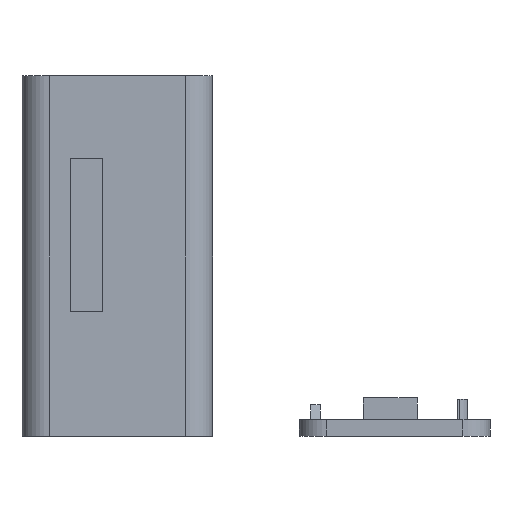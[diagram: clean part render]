
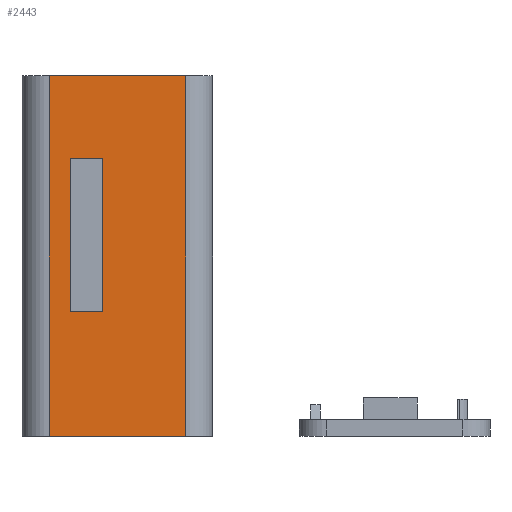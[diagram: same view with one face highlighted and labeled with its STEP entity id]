
A CAD part, left-side view. The second image highlights one B-rep face of the part: STEP entity #2443.
In plain terms, the highlighted planar face has unit normal (-1, 0, 0).
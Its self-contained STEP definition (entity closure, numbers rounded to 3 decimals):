
#27=FACE_BOUND('',#428,.T.);
#177=PLANE('',#2661);
#292=FACE_OUTER_BOUND('',#427,.T.);
#427=EDGE_LOOP('',(#2049,#2050,#2051,#2052));
#428=EDGE_LOOP('',(#2053,#2054,#2055,#2056));
#491=LINE('',#3507,#751);
#637=LINE('',#3918,#897);
#647=LINE('',#3934,#907);
#650=LINE('',#3939,#910);
#652=LINE('',#3944,#912);
#655=LINE('',#3948,#915);
#663=LINE('',#3965,#923);
#664=LINE('',#3967,#924);
#751=VECTOR('',#2800,1000.);
#897=VECTOR('',#3180,1000.);
#907=VECTOR('',#3194,1000.);
#910=VECTOR('',#3199,1000.);
#912=VECTOR('',#3203,1000.);
#915=VECTOR('',#3208,1000.);
#923=VECTOR('',#3234,1000.);
#924=VECTOR('',#3237,1000.);
#1025=VERTEX_POINT('',#3504);
#1026=VERTEX_POINT('',#3506);
#1173=VERTEX_POINT('',#3915);
#1174=VERTEX_POINT('',#3917);
#1177=VERTEX_POINT('',#3931);
#1178=VERTEX_POINT('',#3933);
#1179=VERTEX_POINT('',#3937);
#1181=VERTEX_POINT('',#3943);
#1273=EDGE_CURVE('',#1026,#1025,#491,.T.);
#1476=EDGE_CURVE('',#1174,#1173,#637,.T.);
#1487=EDGE_CURVE('',#1178,#1177,#647,.T.);
#1490=EDGE_CURVE('',#1179,#1178,#650,.T.);
#1492=EDGE_CURVE('',#1181,#1179,#652,.T.);
#1495=EDGE_CURVE('',#1177,#1181,#655,.T.);
#1503=EDGE_CURVE('',#1025,#1174,#663,.T.);
#1504=EDGE_CURVE('',#1173,#1026,#664,.T.);
#2049=ORIENTED_EDGE('',*,*,#1503,.T.);
#2050=ORIENTED_EDGE('',*,*,#1476,.T.);
#2051=ORIENTED_EDGE('',*,*,#1504,.T.);
#2052=ORIENTED_EDGE('',*,*,#1273,.T.);
#2053=ORIENTED_EDGE('',*,*,#1492,.T.);
#2054=ORIENTED_EDGE('',*,*,#1490,.T.);
#2055=ORIENTED_EDGE('',*,*,#1487,.T.);
#2056=ORIENTED_EDGE('',*,*,#1495,.T.);
#2443=ADVANCED_FACE('',(#292,#27),#177,.T.);
#2661=AXIS2_PLACEMENT_3D('',#3968,#3238,#3239);
#2800=DIRECTION('',(0.,-1.,0.));
#3180=DIRECTION('',(0.,1.,0.));
#3194=DIRECTION('',(0.,-1.,0.));
#3199=DIRECTION('',(0.,0.,1.));
#3203=DIRECTION('',(0.,1.,0.));
#3208=DIRECTION('',(0.,0.,-1.));
#3234=DIRECTION('',(0.,0.,1.));
#3237=DIRECTION('',(0.,0.,-1.));
#3238=DIRECTION('center_axis',(-1.,0.,0.));
#3239=DIRECTION('ref_axis',(0.,0.,-1.));
#3504=CARTESIAN_POINT('',(-36.245,5.42,0.));
#3506=CARTESIAN_POINT('',(-36.245,18.187,0.));
#3507=CARTESIAN_POINT('',(-36.245,15.203,0.));
#3915=CARTESIAN_POINT('',(-36.245,18.187,33.763));
#3917=CARTESIAN_POINT('',(-36.245,5.42,33.763));
#3918=CARTESIAN_POINT('',(-36.245,19.203,33.763));
#3931=CARTESIAN_POINT('',(-36.245,13.203,26.047));
#3933=CARTESIAN_POINT('',(-36.245,16.203,26.047));
#3934=CARTESIAN_POINT('',(-36.245,15.703,26.047));
#3937=CARTESIAN_POINT('',(-36.245,16.203,11.666));
#3939=CARTESIAN_POINT('',(-36.245,16.203,13.916));
#3943=CARTESIAN_POINT('',(-36.245,13.203,11.666));
#3944=CARTESIAN_POINT('',(-36.245,14.203,11.666));
#3948=CARTESIAN_POINT('',(-36.245,13.203,20.916));
#3965=CARTESIAN_POINT('',(-36.245,5.42,16.166));
#3967=CARTESIAN_POINT('',(-36.245,18.187,16.166));
#3968=CARTESIAN_POINT('Origin',(-36.245,15.203,16.166));
